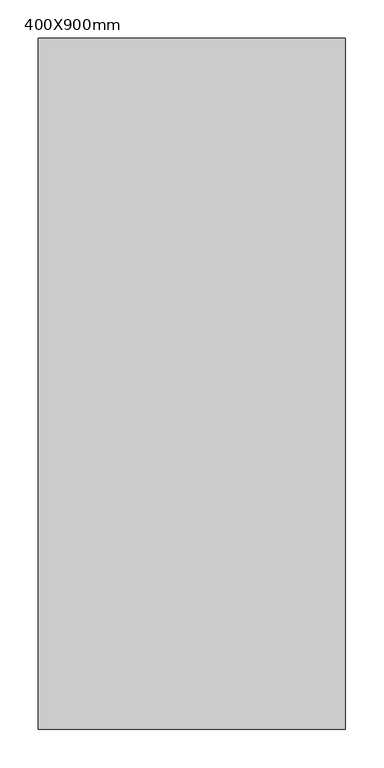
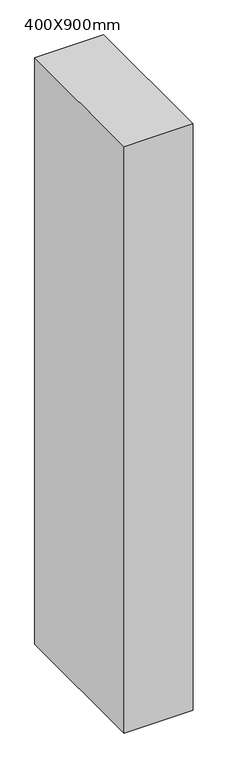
"""IFC4 building model written with IfcOpenShell, lengths in millimetres: column geometry, 混凝土 - 矩形 - 柱 : 400X900mm."""

from ifc_helpers import new_model, si_unit, origin, origin_with_axes, place, context, project, spatial, polyline, outline, extrude, source, transform, mapped, element, save


def column_400x900mm_74237744(model_context):
    return source(origin(), model_context, "Body", "SweptSolid", [
        extrude(outline(polyline([(200.0, 450.0), (200.0, -450.0), (-200.0, -450.0), (-200.0, 450.0), (200.0, 450.0)])), origin_with_axes(), (0.0, 0.0, 1.0), 3600.0),
    ])


if __name__ == "__main__":
    model = new_model("IFC4")
    model_context = context("Model", 3, world=origin())
    ifc_project = project(units=[si_unit("LENGTHUNIT", "METRE", prefix="MILLI")], contexts=[model_context])
    site = spatial("IfcSite", under=ifc_project)
    building = spatial("IfcBuilding", under=site)
    placement = place(None, origin())
    column_400x900mm_shape = column_400x900mm_74237744(model_context)
    element("IfcColumn", 1, ObjectType="混凝土 - 矩形 - 柱 : 400X900mm", at=placement, inside=building, context=model_context, shape_type="MappedRepresentation", body=[
        mapped(column_400x900mm_shape, transform((0.0, 0.0, 0.0), x_axis=(1.0, 0.0, 0.0), y_axis=(0.0, 1.0, 0.0), z_axis=(0.0, 0.0, 1.0))),
    ])
    save(model, "model.ifc")
